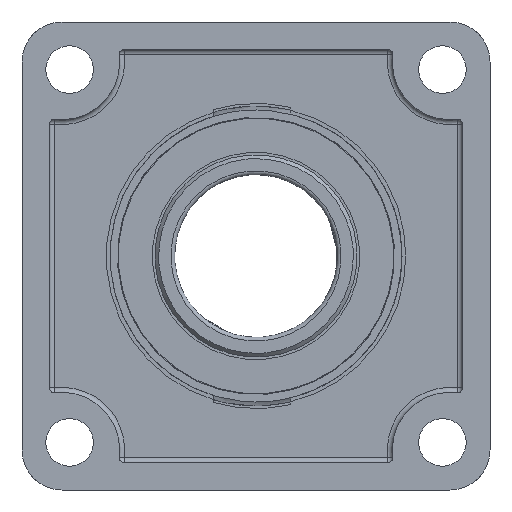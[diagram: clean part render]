
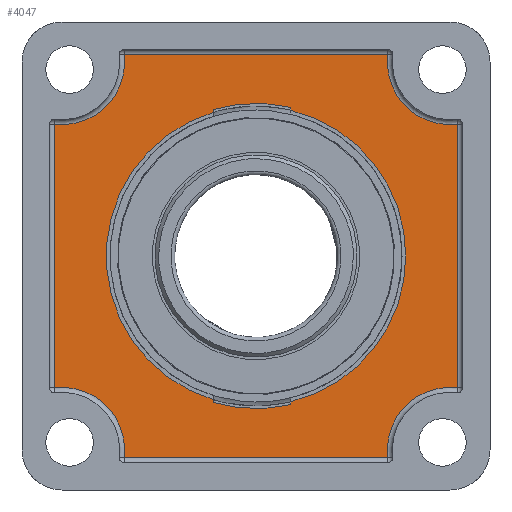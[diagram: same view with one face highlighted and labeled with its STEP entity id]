
A CAD part, front view. The second image highlights one B-rep face of the part: STEP entity #4047.
In plain terms, the highlighted planar face has unit normal (0, -1, 0).
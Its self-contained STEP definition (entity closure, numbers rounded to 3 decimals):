
#236=FACE_BOUND('',#588,.T.);
#351=FACE_OUTER_BOUND('',#587,.T.);
#587=EDGE_LOOP('',(#2675,#2676,#2677,#2678,#2679,#2680,#2681,#2682));
#588=EDGE_LOOP('',(#2683,#2684,#2685,#2686,#2687,#2688,#2689,#2690));
#859=CIRCLE('',#4364,61.);
#862=CIRCLE('',#4369,25.);
#863=CIRCLE('',#4370,25.);
#864=CIRCLE('',#4371,25.);
#865=CIRCLE('',#4372,25.);
#866=CIRCLE('',#4373,59.844);
#867=CIRCLE('',#4374,61.);
#868=CIRCLE('',#4375,59.844);
#1250=LINE('',#6427,#1402);
#1258=LINE('',#6447,#1410);
#1259=LINE('',#6456,#1411);
#1260=LINE('',#6460,#1412);
#1261=LINE('',#6464,#1413);
#1262=LINE('',#6468,#1414);
#1263=LINE('',#6473,#1415);
#1264=LINE('',#6477,#1416);
#1402=VECTOR('',#5001,10.);
#1410=VECTOR('',#5015,10.);
#1411=VECTOR('',#5028,10.);
#1412=VECTOR('',#5031,10.);
#1413=VECTOR('',#5034,10.);
#1414=VECTOR('',#5037,10.);
#1415=VECTOR('',#5042,10.);
#1416=VECTOR('',#5045,10.);
#1553=VERTEX_POINT('',#6423);
#1555=VERTEX_POINT('',#6426);
#1560=VERTEX_POINT('',#6437);
#1564=VERTEX_POINT('',#6445);
#1565=VERTEX_POINT('',#6454);
#1566=VERTEX_POINT('',#6455);
#1567=VERTEX_POINT('',#6457);
#1568=VERTEX_POINT('',#6459);
#1569=VERTEX_POINT('',#6461);
#1570=VERTEX_POINT('',#6463);
#1571=VERTEX_POINT('',#6465);
#1572=VERTEX_POINT('',#6467);
#1573=VERTEX_POINT('',#6470);
#1574=VERTEX_POINT('',#6472);
#1575=VERTEX_POINT('',#6474);
#1576=VERTEX_POINT('',#6476);
#2008=EDGE_CURVE('',#1555,#1553,#1250,.T.);
#2018=EDGE_CURVE('',#1560,#1564,#1258,.T.);
#2019=EDGE_CURVE('',#1564,#1555,#859,.T.);
#2022=EDGE_CURVE('',#1565,#1566,#1259,.T.);
#2023=EDGE_CURVE('',#1567,#1565,#862,.T.);
#2024=EDGE_CURVE('',#1568,#1567,#1260,.T.);
#2025=EDGE_CURVE('',#1569,#1568,#863,.T.);
#2026=EDGE_CURVE('',#1570,#1569,#1261,.T.);
#2027=EDGE_CURVE('',#1571,#1570,#864,.T.);
#2028=EDGE_CURVE('',#1572,#1571,#1262,.T.);
#2029=EDGE_CURVE('',#1566,#1572,#865,.T.);
#2030=EDGE_CURVE('',#1573,#1553,#866,.T.);
#2031=EDGE_CURVE('',#1573,#1574,#1263,.T.);
#2032=EDGE_CURVE('',#1574,#1575,#867,.T.);
#2033=EDGE_CURVE('',#1575,#1576,#1264,.T.);
#2034=EDGE_CURVE('',#1560,#1576,#868,.T.);
#2675=ORIENTED_EDGE('',*,*,#2022,.F.);
#2676=ORIENTED_EDGE('',*,*,#2023,.F.);
#2677=ORIENTED_EDGE('',*,*,#2024,.F.);
#2678=ORIENTED_EDGE('',*,*,#2025,.F.);
#2679=ORIENTED_EDGE('',*,*,#2026,.F.);
#2680=ORIENTED_EDGE('',*,*,#2027,.F.);
#2681=ORIENTED_EDGE('',*,*,#2028,.F.);
#2682=ORIENTED_EDGE('',*,*,#2029,.F.);
#2683=ORIENTED_EDGE('',*,*,#2018,.T.);
#2684=ORIENTED_EDGE('',*,*,#2019,.T.);
#2685=ORIENTED_EDGE('',*,*,#2008,.T.);
#2686=ORIENTED_EDGE('',*,*,#2030,.F.);
#2687=ORIENTED_EDGE('',*,*,#2031,.T.);
#2688=ORIENTED_EDGE('',*,*,#2032,.T.);
#2689=ORIENTED_EDGE('',*,*,#2033,.T.);
#2690=ORIENTED_EDGE('',*,*,#2034,.F.);
#3954=PLANE('',#4368);
#4047=ADVANCED_FACE('',(#351,#236),#3954,.F.);
#4364=AXIS2_PLACEMENT_3D('',#6449,#5018,#5019);
#4368=AXIS2_PLACEMENT_3D('',#6453,#5026,#5027);
#4369=AXIS2_PLACEMENT_3D('',#6458,#5029,#5030);
#4370=AXIS2_PLACEMENT_3D('',#6462,#5032,#5033);
#4371=AXIS2_PLACEMENT_3D('',#6466,#5035,#5036);
#4372=AXIS2_PLACEMENT_3D('',#6469,#5038,#5039);
#4373=AXIS2_PLACEMENT_3D('',#6471,#5040,#5041);
#4374=AXIS2_PLACEMENT_3D('',#6475,#5043,#5044);
#4375=AXIS2_PLACEMENT_3D('',#6478,#5046,#5047);
#5001=DIRECTION('',(0.,0.,1.));
#5015=DIRECTION('',(0.,0.,-1.));
#5018=DIRECTION('center_axis',(0.,1.,0.));
#5019=DIRECTION('ref_axis',(0.228,0.,-0.974));
#5026=DIRECTION('center_axis',(0.,1.,0.));
#5027=DIRECTION('ref_axis',(0.,0.,1.));
#5028=DIRECTION('',(1.,0.,0.));
#5029=DIRECTION('center_axis',(0.,-1.,0.));
#5030=DIRECTION('ref_axis',(0.707,0.,-0.707));
#5031=DIRECTION('',(0.,0.,1.));
#5032=DIRECTION('center_axis',(0.,-1.,0.));
#5033=DIRECTION('ref_axis',(0.707,0.,0.707));
#5034=DIRECTION('',(-1.,0.,0.));
#5035=DIRECTION('center_axis',(0.,-1.,0.));
#5036=DIRECTION('ref_axis',(-0.707,0.,0.707));
#5037=DIRECTION('',(0.,0.,-1.));
#5038=DIRECTION('center_axis',(0.,-1.,0.));
#5039=DIRECTION('ref_axis',(-0.707,0.,-0.707));
#5040=DIRECTION('center_axis',(0.,-1.,0.));
#5041=DIRECTION('ref_axis',(1.,0.,0.));
#5042=DIRECTION('',(0.,0.,1.));
#5043=DIRECTION('center_axis',(0.,1.,0.));
#5044=DIRECTION('ref_axis',(0.228,0.,0.974));
#5045=DIRECTION('',(0.,0.,-1.));
#5046=DIRECTION('center_axis',(0.,-1.,0.));
#5047=DIRECTION('ref_axis',(1.,0.,0.));
#6423=CARTESIAN_POINT('',(-17.11,10.,-57.346));
#6426=CARTESIAN_POINT('',(-17.11,10.,-58.551));
#6427=CARTESIAN_POINT('',(-17.11,10.,-26.417));
#6437=CARTESIAN_POINT('',(13.89,10.,-58.209));
#6445=CARTESIAN_POINT('',(13.89,10.,-59.397));
#6447=CARTESIAN_POINT('',(13.89,10.,-29.699));
#6449=CARTESIAN_POINT('Origin',(0.,10.,0.));
#6453=CARTESIAN_POINT('Origin',(0.,10.,0.));
#6454=CARTESIAN_POINT('',(-52.681,10.,80.5));
#6455=CARTESIAN_POINT('',(52.681,10.,80.5));
#6456=CARTESIAN_POINT('',(-27.525,10.,80.5));
#6457=CARTESIAN_POINT('',(-80.5,10.,52.681));
#6458=CARTESIAN_POINT('Origin',(-77.5,10.,77.5));
#6459=CARTESIAN_POINT('',(-80.5,10.,-52.681));
#6460=CARTESIAN_POINT('',(-80.5,10.,-27.525));
#6461=CARTESIAN_POINT('',(-52.681,10.,-80.5));
#6462=CARTESIAN_POINT('Origin',(-77.5,10.,-77.5));
#6463=CARTESIAN_POINT('',(52.681,10.,-80.5));
#6464=CARTESIAN_POINT('',(27.525,10.,-80.5));
#6465=CARTESIAN_POINT('',(80.5,10.,-52.681));
#6466=CARTESIAN_POINT('Origin',(77.5,10.,-77.5));
#6467=CARTESIAN_POINT('',(80.5,10.,52.681));
#6468=CARTESIAN_POINT('',(80.5,10.,27.525));
#6469=CARTESIAN_POINT('Origin',(77.5,10.,77.5));
#6470=CARTESIAN_POINT('',(-17.11,10.,57.346));
#6471=CARTESIAN_POINT('Origin',(0.,10.,0.));
#6472=CARTESIAN_POINT('',(-17.11,10.,58.551));
#6473=CARTESIAN_POINT('',(-17.11,10.,26.417));
#6474=CARTESIAN_POINT('',(13.89,10.,59.397));
#6475=CARTESIAN_POINT('Origin',(0.,10.,0.));
#6476=CARTESIAN_POINT('',(13.89,10.,58.209));
#6477=CARTESIAN_POINT('',(13.89,10.,29.699));
#6478=CARTESIAN_POINT('Origin',(0.,10.,0.));
